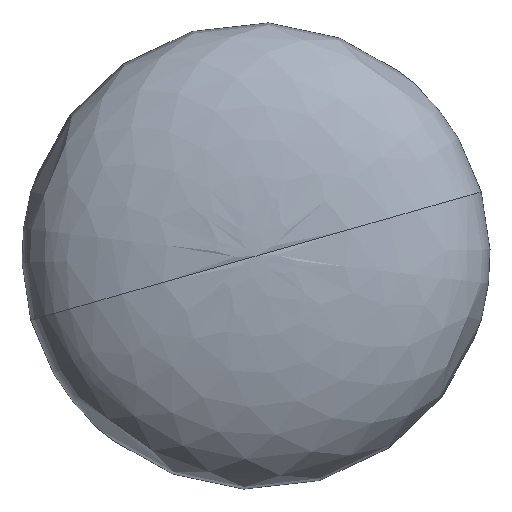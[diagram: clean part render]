
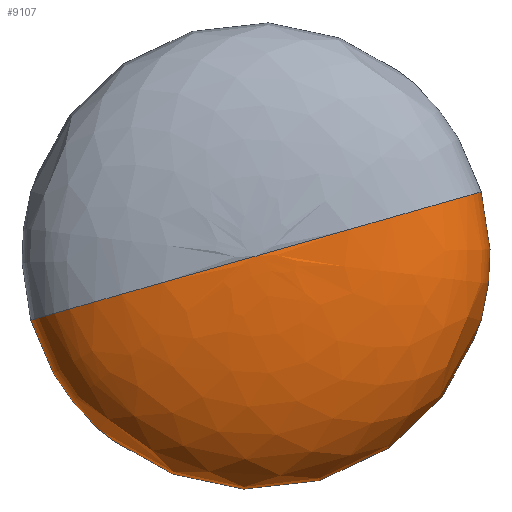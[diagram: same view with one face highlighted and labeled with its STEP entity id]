
A CAD part, front view. The second image highlights one B-rep face of the part: STEP entity #9107.
In plain terms, the highlighted free-form (B-spline) face has degree [3, 3] with [6, 4] control points.
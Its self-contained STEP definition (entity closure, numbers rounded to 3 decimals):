
#240 =( BOUNDED_SURFACE ( )  B_SPLINE_SURFACE ( 3, 3, ( 
 ( #20547, #5772, #18413, #2983 ),
 ( #13150, #18094, #30429, #23532 ),
 ( #8078, #15292, #23358, #25317 ),
 ( #847, #25806, #698, #12994 ),
 ( #20705, #10861, #7923, #17927 ),
 ( #27940, #28101, #5442, #28438 ) ),
 .UNSPECIFIED., .F., .F., .T. ) 
 B_SPLINE_SURFACE_WITH_KNOTS ( ( 4, 1, 1, 4 ),
 ( 4, 4 ),
 ( 0., 0.504, 0.602, 0.973 ),
 ( 0., 1. ),
 .UNSPECIFIED. ) 
 GEOMETRIC_REPRESENTATION_ITEM ( )  RATIONAL_B_SPLINE_SURFACE ( (
 ( 1., 0.333, 0.333, 1.),
 ( 1., 0.333, 0.333, 1.),
 ( 1., 0.333, 0.333, 1.),
 ( 1., 0.333, 0.333, 1.),
 ( 1., 0.333, 0.333, 1.),
 ( 1., 0.333, 0.333, 1.) ) ) 
 REPRESENTATION_ITEM ( '' )  SURFACE ( )  );
#698 = CARTESIAN_POINT ( 'NONE',  ( 148.768, -37.949, -244.978 ) ) ;
#847 = CARTESIAN_POINT ( 'NONE',  ( -272.665, -37.949, -10.24 ) ) ;
#1357 = CARTESIAN_POINT ( 'NONE',  ( -108.622, 23.507, 36.434 ) ) ;
#1493 = B_SPLINE_CURVE_WITH_KNOTS ( 'NONE', 3,
 ( #24396, #14503, #22089, #21927, #17641, #7643 ),
 .UNSPECIFIED., .F., .F.,
 ( 4, 1, 1, 4 ),
 ( 0., 0.504, 0.602, 0.973 ),
 .UNSPECIFIED. ) ;
#2983 = CARTESIAN_POINT ( 'NONE',  ( -108.622, -152.087, 36.434 ) ) ;
#3122 = CIRCLE ( 'NONE', #25136, 102.347 ) ;
#4285 = CARTESIAN_POINT ( 'NONE',  ( 55.421, -37.949, 83.108 ) ) ;
#4487 = EDGE_CURVE ( 'NONE', #20079, #28191, #14508, .T. ) ;
#5442 = CARTESIAN_POINT ( 'NONE',  ( 45.834, 23.507, -132.437 ) ) ;
#5772 = CARTESIAN_POINT ( 'NONE',  ( -108.622, -152.087, 36.434 ) ) ;
#6169 = ORIENTED_EDGE ( 'NONE', *, *, #29983, .T. ) ;
#7643 = CARTESIAN_POINT ( 'NONE',  ( -207.062, 23.507, 8.426 ) ) ;
#7923 = CARTESIAN_POINT ( 'NONE',  ( 110.207, 7.729, -202.818 ) ) ;
#8078 = CARTESIAN_POINT ( 'NONE',  ( -271.106, -128.958, -9.796 ) ) ;
#9107 = ADVANCED_FACE ( 'NONE', ( #25964 ), #240, .T. ) ;
#9310 = CARTESIAN_POINT ( 'NONE',  ( -10.182, 23.507, 64.442 ) ) ;
#10861 = CARTESIAN_POINT ( 'NONE',  ( -168.726, 7.729, -282.181 ) ) ;
#11375 = DIRECTION ( 'NONE',  ( 0., -1., 0. ) ) ;
#12994 = CARTESIAN_POINT ( 'NONE',  ( 55.421, -37.949, 83.108 ) ) ;
#13150 = CARTESIAN_POINT ( 'NONE',  ( -186.357, -152.087, 14.317 ) ) ;
#14442 = CARTESIAN_POINT ( 'NONE',  ( -108.622, -152.087, 36.434 ) ) ;
#14503 = CARTESIAN_POINT ( 'NONE',  ( -186.357, -152.087, 14.317 ) ) ;
#14508 = B_SPLINE_CURVE_WITH_KNOTS ( 'NONE', 3,
 ( #14442, #29931, #29760, #4285, #27276, #30093 ),
 .UNSPECIFIED., .F., .F.,
 ( 4, 1, 1, 4 ),
 ( 0., 0.504, 0.602, 0.973 ),
 .UNSPECIFIED. ) ;
#15292 = CARTESIAN_POINT ( 'NONE',  ( -178.645, -128.958, -334.764 ) ) ;
#16054 = CARTESIAN_POINT ( 'NONE',  ( -108.622, -152.087, 36.434 ) ) ;
#16910 = ORIENTED_EDGE ( 'NONE', *, *, #23063, .T. ) ;
#17641 = CARTESIAN_POINT ( 'NONE',  ( -248.089, 7.729, -3.247 ) ) ;
#17927 = CARTESIAN_POINT ( 'NONE',  ( 30.845, 7.729, 76.115 ) ) ;
#18094 = CARTESIAN_POINT ( 'NONE',  ( -142.122, -152.087, -141.153 ) ) ;
#18413 = CARTESIAN_POINT ( 'NONE',  ( -108.622, -152.087, 36.434 ) ) ;
#19585 = ORIENTED_EDGE ( 'NONE', *, *, #4487, .F. ) ;
#20079 = VERTEX_POINT ( 'NONE', #16054 ) ;
#20336 = VERTEX_POINT ( 'NONE', #22133 ) ;
#20547 = CARTESIAN_POINT ( 'NONE',  ( -108.622, -152.087, 36.434 ) ) ;
#20705 = CARTESIAN_POINT ( 'NONE',  ( -248.089, 7.729, -3.247 ) ) ;
#21927 = CARTESIAN_POINT ( 'NONE',  ( -272.665, -37.949, -10.24 ) ) ;
#22089 = CARTESIAN_POINT ( 'NONE',  ( -271.106, -128.958, -9.796 ) ) ;
#22133 = CARTESIAN_POINT ( 'NONE',  ( -207.062, 23.507, 8.426 ) ) ;
#23063 = EDGE_CURVE ( 'NONE', #20336, #28191, #3122, .T. ) ;
#23358 = CARTESIAN_POINT ( 'NONE',  ( 146.322, -128.958, -242.303 ) ) ;
#23532 = CARTESIAN_POINT ( 'NONE',  ( -30.887, -152.087, 58.551 ) ) ;
#24396 = CARTESIAN_POINT ( 'NONE',  ( -108.622, -152.087, 36.434 ) ) ;
#25136 = AXIS2_PLACEMENT_3D ( 'NONE', #1357, #11375, #26796 ) ;
#25317 = CARTESIAN_POINT ( 'NONE',  ( 53.862, -128.958, 82.664 ) ) ;
#25806 = CARTESIAN_POINT ( 'NONE',  ( -179.317, -37.949, -338.325 ) ) ;
#25964 = FACE_OUTER_BOUND ( 'NONE', #28640, .T. ) ;
#26796 = DIRECTION ( 'NONE',  ( 0.962, 0., 0.274 ) ) ;
#27276 = CARTESIAN_POINT ( 'NONE',  ( 30.845, 7.729, 76.115 ) ) ;
#27940 = CARTESIAN_POINT ( 'NONE',  ( -207.062, 23.507, 8.426 ) ) ;
#28101 = CARTESIAN_POINT ( 'NONE',  ( -151.045, 23.507, -188.454 ) ) ;
#28191 = VERTEX_POINT ( 'NONE', #9310 ) ;
#28438 = CARTESIAN_POINT ( 'NONE',  ( -10.182, 23.507, 64.442 ) ) ;
#28640 = EDGE_LOOP ( 'NONE', ( #19585, #6169, #16910 ) ) ;
#29760 = CARTESIAN_POINT ( 'NONE',  ( 53.862, -128.958, 82.664 ) ) ;
#29931 = CARTESIAN_POINT ( 'NONE',  ( -30.887, -152.087, 58.551 ) ) ;
#29983 = EDGE_CURVE ( 'NONE', #20079, #20336, #1493, .T. ) ;
#30093 = CARTESIAN_POINT ( 'NONE',  ( -10.182, 23.507, 64.442 ) ) ;
#30429 = CARTESIAN_POINT ( 'NONE',  ( 13.347, -152.087, -96.918 ) ) ;
